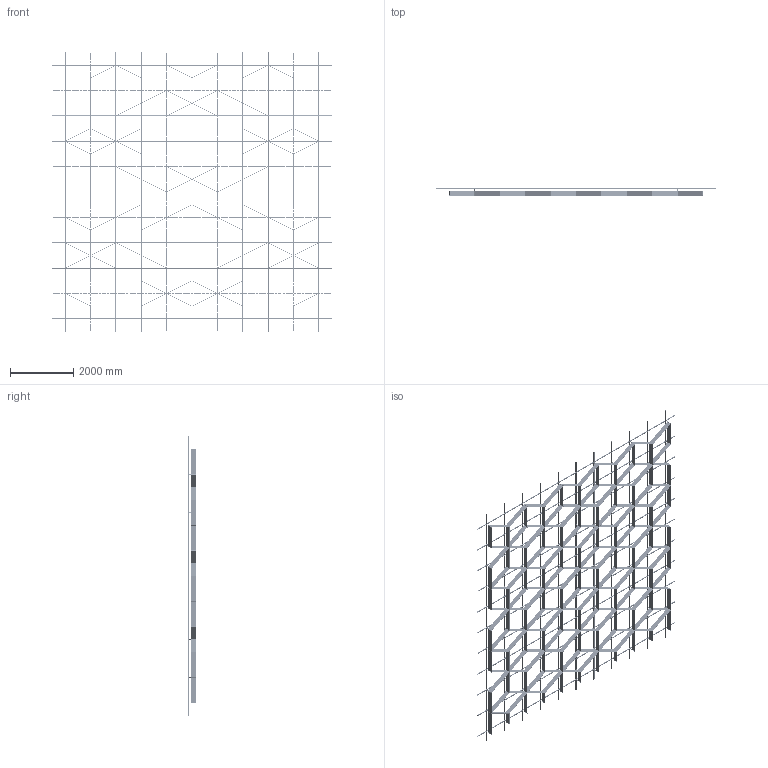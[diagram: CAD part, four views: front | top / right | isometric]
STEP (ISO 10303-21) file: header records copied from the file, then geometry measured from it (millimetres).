
FILE_DESCRIPTION (( 'STEP AP214' ), '1' );
FILE_NAME ('OPT_Var23.STEP', '2024-04-26T08:55:09', ( '' ), ( '' ), 'SwSTEP 2.0', 'SolidWorks 2020', '' );
FILE_SCHEMA (( 'AUTOMOTIVE_DESIGN' ));
Length unit declared in the file: millimetre
Products named in the file (5): OPT_Var23; Ñèñòåìà â çîíå 8000õ8000; Varp23; SS.SEMA.2400 - Ñèìà-ïðîôèëü — îáðåçàí 1600; SS.SEMA.2400 - Ñèìà-ïðîôèëü
Assembly tree (90 placements, depth 3):
  OPT_Var23
    Ñèñòåìà â çîíå 8000õ8000
      SS.SEMA.2400 - Ñèìà-ïðîôèëü  x66
      SS.SEMA.2400 - Ñèìà-ïðîôèëü — îáðåçàí 1600  x22
    Varp23
Bounding box: 8800 x 253 x 8800 mm (x, y, z)
Volume: 217116725 mm3; surface area: 86763170.5 mm2
Topology: 779 solids, 779 shells, 20506 faces, 55436 edges, 36488 vertices
Faces by surface type: cylinder 12826, plane 7680
Entity records: 118592 total; most frequent: CARTESIAN_POINT 36192, ORIENTED_EDGE 17720, DIRECTION 10366, EDGE_CURVE 8860, B_SPLINE_CURVE_WITH_KNOTS 5936, VERTEX_POINT 5896, AXIS2_PLACEMENT_3D 4934, EDGE_LOOP 4512
